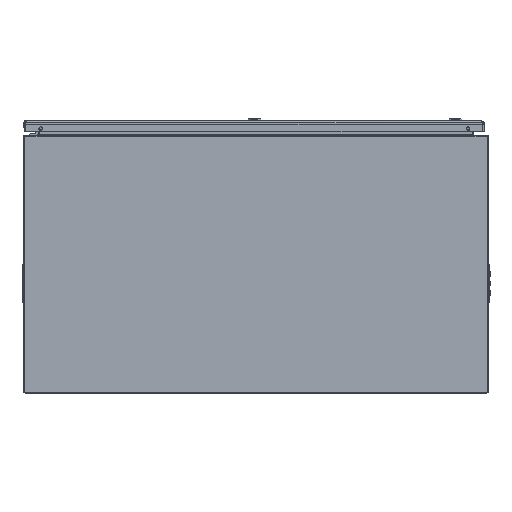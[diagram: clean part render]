
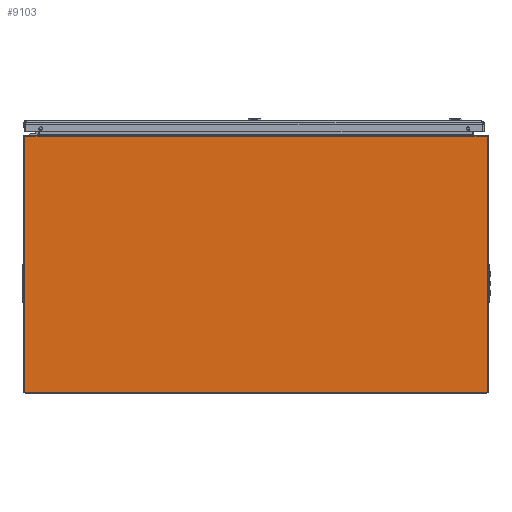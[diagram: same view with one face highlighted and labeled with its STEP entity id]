
A CAD part, front view. The second image highlights one B-rep face of the part: STEP entity #9103.
In plain terms, the highlighted planar face has unit normal (0, -1, 0).
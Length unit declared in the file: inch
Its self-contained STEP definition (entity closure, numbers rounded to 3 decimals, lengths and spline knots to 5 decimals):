
#8206=CARTESIAN_POINT('',(17.887,0.,9.897));
#8207=DIRECTION('',(0.,-1.,0.));
#8208=DIRECTION('',(1.,0.,0.));
#8209=AXIS2_PLACEMENT_3D('',#8206,#8207,#8208);
#8214=DIRECTION('',(0.,0.,-1.));
#8215=VECTOR('',#8214,19.764);
#8216=CARTESIAN_POINT('',(17.967,0.,9.897));
#8217=LINE('',#8216,#8215);
#8221=CARTESIAN_POINT('',(17.887,0.,-9.867));
#8222=DIRECTION('',(0.,-1.,0.));
#8223=DIRECTION('',(0.,0.,-1.));
#8224=AXIS2_PLACEMENT_3D('',#8221,#8222,#8223);
#8229=CARTESIAN_POINT('',(-17.887,0.,-9.867));
#8230=DIRECTION('',(0.,-1.,0.));
#8231=DIRECTION('',(-1.,0.,0.));
#8232=AXIS2_PLACEMENT_3D('',#8229,#8230,#8231);
#8237=DIRECTION('',(0.,0.,1.));
#8238=VECTOR('',#8237,19.764);
#8239=CARTESIAN_POINT('',(-17.967,0.,-9.867));
#8240=LINE('',#8239,#8238);
#8244=CARTESIAN_POINT('',(-17.887,0.,9.897));
#8245=DIRECTION('',(0.,-1.,0.));
#8246=DIRECTION('',(0.,0.,1.));
#8247=AXIS2_PLACEMENT_3D('',#8244,#8245,#8246);
#8259=DIRECTION('',(-1.,0.,0.));
#8260=VECTOR('',#8259,1.062);
#8261=CARTESIAN_POINT('',(17.887,0.,9.977));
#8262=LINE('',#8261,#8260);
#8287=DIRECTION('',(0.,0.,-1.));
#8288=VECTOR('',#8287,0.094);
#8289=CARTESIAN_POINT('',(16.825,0.,9.977));
#8290=LINE('',#8289,#8288);
#8430=DIRECTION('',(1.,0.,0.));
#8431=VECTOR('',#8430,33.65);
#8432=CARTESIAN_POINT('',(-16.825,0.,9.883));
#8433=LINE('',#8432,#8431);
#8474=DIRECTION('',(0.,0.,1.));
#8475=VECTOR('',#8474,0.094);
#8476=CARTESIAN_POINT('',(-16.825,0.,9.883));
#8477=LINE('',#8476,#8475);
#8509=DIRECTION('',(-1.,0.,0.));
#8510=VECTOR('',#8509,1.062);
#8511=CARTESIAN_POINT('',(-16.825,0.,9.977));
#8512=LINE('',#8511,#8510);
#8551=DIRECTION('',(1.,0.,0.));
#8552=VECTOR('',#8551,35.774);
#8553=CARTESIAN_POINT('',(-17.887,0.,-9.947));
#8554=LINE('',#8553,#8552);
#8956=CARTESIAN_POINT('',(-16.825,0.,9.883));
#8957=CARTESIAN_POINT('',(16.825,0.,9.883));
#8958=VERTEX_POINT('',#8956);
#8959=VERTEX_POINT('',#8957);
#9032=CARTESIAN_POINT('',(16.825,0.,9.977));
#9034=VERTEX_POINT('',#9032);
#9036=CARTESIAN_POINT('',(-16.825,0.,9.977));
#9038=VERTEX_POINT('',#9036);
#9040=CARTESIAN_POINT('',(17.967,0.,9.897));
#9041=CARTESIAN_POINT('',(17.887,0.,9.977));
#9042=VERTEX_POINT('',#9040);
#9043=VERTEX_POINT('',#9041);
#9048=CARTESIAN_POINT('',(17.887,0.,-9.947));
#9049=CARTESIAN_POINT('',(17.967,0.,-9.867));
#9050=VERTEX_POINT('',#9048);
#9051=VERTEX_POINT('',#9049);
#9056=CARTESIAN_POINT('',(-17.967,0.,-9.867));
#9057=CARTESIAN_POINT('',(-17.887,0.,-9.947));
#9058=VERTEX_POINT('',#9056);
#9059=VERTEX_POINT('',#9057);
#9064=CARTESIAN_POINT('',(-17.887,0.,9.977));
#9065=CARTESIAN_POINT('',(-17.967,0.,9.897));
#9066=VERTEX_POINT('',#9064);
#9067=VERTEX_POINT('',#9065);
#9072=CARTESIAN_POINT('',(0.,0.,0.));
#9073=DIRECTION('',(0.,-1.,0.));
#9074=DIRECTION('',(-1.,0.,0.));
#9075=AXIS2_PLACEMENT_3D('',#9072,#9073,#9074);
#9076=PLANE('',#9075);
#9078=ORIENTED_EDGE('',*,*,#9077,.F.);
#9080=ORIENTED_EDGE('',*,*,#9079,.T.);
#9082=ORIENTED_EDGE('',*,*,#9081,.F.);
#9084=ORIENTED_EDGE('',*,*,#9083,.F.);
#9086=ORIENTED_EDGE('',*,*,#9085,.F.);
#9088=ORIENTED_EDGE('',*,*,#9087,.T.);
#9090=ORIENTED_EDGE('',*,*,#9089,.F.);
#9092=ORIENTED_EDGE('',*,*,#9091,.F.);
#9094=ORIENTED_EDGE('',*,*,#9093,.F.);
#9096=ORIENTED_EDGE('',*,*,#9095,.T.);
#9098=ORIENTED_EDGE('',*,*,#9097,.F.);
#9100=ORIENTED_EDGE('',*,*,#9099,.F.);
#9101=EDGE_LOOP('',(#9078,#9080,#9082,#9084,#9086,#9088,#9090,#9092,#9094,#9096,
#9098,#9100));
#9102=FACE_OUTER_BOUND('',#9101,.F.);
#8210=CIRCLE('',#8209,0.08);
#8225=CIRCLE('',#8224,0.08);
#8233=CIRCLE('',#8232,0.08);
#8248=CIRCLE('',#8247,0.08);
#9077=EDGE_CURVE('',#9042,#9043,#8210,.T.);
#9079=EDGE_CURVE('',#9042,#9051,#8217,.T.);
#9081=EDGE_CURVE('',#9050,#9051,#8225,.T.);
#9083=EDGE_CURVE('',#9059,#9050,#8554,.T.);
#9085=EDGE_CURVE('',#9058,#9059,#8233,.T.);
#9087=EDGE_CURVE('',#9058,#9067,#8240,.T.);
#9089=EDGE_CURVE('',#9066,#9067,#8248,.T.);
#9091=EDGE_CURVE('',#9038,#9066,#8512,.T.);
#9093=EDGE_CURVE('',#8958,#9038,#8477,.T.);
#9095=EDGE_CURVE('',#8958,#8959,#8433,.T.);
#9097=EDGE_CURVE('',#9034,#8959,#8290,.T.);
#9099=EDGE_CURVE('',#9043,#9034,#8262,.T.);
#9103=ADVANCED_FACE('',(#9102),#9076,.T.);
